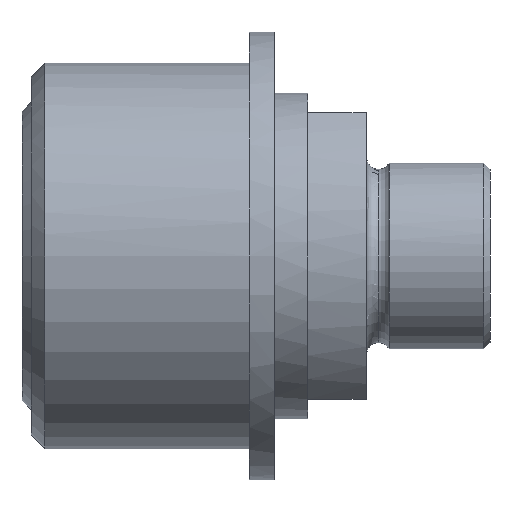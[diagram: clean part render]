
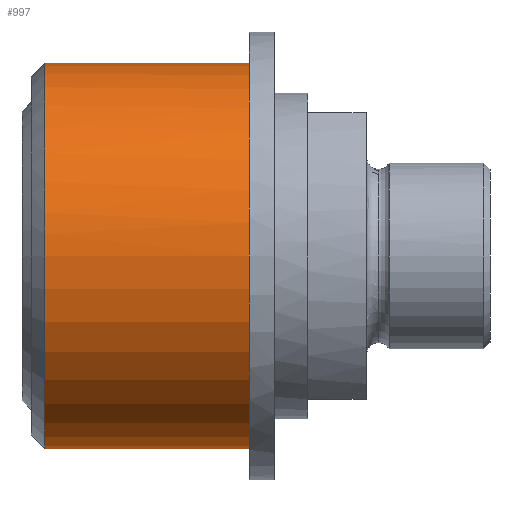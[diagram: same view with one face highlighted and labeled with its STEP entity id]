
A CAD part, front view. The second image highlights one B-rep face of the part: STEP entity #997.
In plain terms, the highlighted cylindrical face has radius 28 mm (diameter 56 mm), a partial arc.
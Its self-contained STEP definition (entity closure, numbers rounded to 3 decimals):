
#831=CARTESIAN_POINT('Vertex',(0.,0.,28.)) ;
#834=CARTESIAN_POINT('Axis2P3D Location',(0.,0.,0.)) ;
#838=CARTESIAN_POINT('Vertex',(0.,-28.,0.)) ;
#841=CARTESIAN_POINT('Axis2P3D Location',(0.,0.,0.)) ;
#845=CARTESIAN_POINT('Vertex',(0.,0.,-28.)) ;
#931=CARTESIAN_POINT('Line Origine',(35.,0.,-28.)) ;
#935=CARTESIAN_POINT('Vertex',(-29.697,0.,-28.)) ;
#952=CARTESIAN_POINT('Vertex',(-29.697,0.,28.)) ;
#955=CARTESIAN_POINT('Line Origine',(35.,0.,28.)) ;
#969=CARTESIAN_POINT('Axis2P3D Location',(35.,0.,0.)) ;
#975=CARTESIAN_POINT('Control Point',(-29.697,0.,28.)) ;
#976=CARTESIAN_POINT('Control Point',(-29.697,-8.796,28.)) ;
#977=CARTESIAN_POINT('Control Point',(-29.697,-17.601,24.556)) ;
#978=CARTESIAN_POINT('Control Point',(-29.697,-24.556,17.601)) ;
#979=CARTESIAN_POINT('Control Point',(-29.697,-28.,8.796)) ;
#980=CARTESIAN_POINT('Control Point',(-29.697,-28.,0.)) ;
#981=CARTESIAN_POINT('Vertex',(-29.697,-28.,0.)) ;
#984=CARTESIAN_POINT('Axis2P3D Location',(-29.697,0.,0.)) ;
#835=DIRECTION('Axis2P3D Direction',(1.,0.,-0.)) ;
#842=DIRECTION('Axis2P3D Direction',(1.,0.,-0.)) ;
#932=DIRECTION('Vector Direction',(-1.,0.,0.)) ;
#956=DIRECTION('Vector Direction',(-1.,0.,0.)) ;
#970=DIRECTION('Axis2P3D Direction',(-1.,-0.,-0.)) ;
#971=DIRECTION('Axis2P3D XDirection',(0.,0.,-1.)) ;
#985=DIRECTION('Axis2P3D Direction',(-1.,-0.,-0.)) ;
#836=AXIS2_PLACEMENT_3D('Circle Axis2P3D',#834,#835,$) ;
#843=AXIS2_PLACEMENT_3D('Circle Axis2P3D',#841,#842,$) ;
#972=AXIS2_PLACEMENT_3D('Cylinder Axis2P3D',#969,#970,#971) ;
#986=AXIS2_PLACEMENT_3D('Circle Axis2P3D',#984,#985,$) ;
#990=ORIENTED_EDGE('',*,*,#959,.T.) ;
#991=ORIENTED_EDGE('',*,*,#983,.T.) ;
#992=ORIENTED_EDGE('',*,*,#988,.T.) ;
#993=ORIENTED_EDGE('',*,*,#937,.T.) ;
#994=ORIENTED_EDGE('',*,*,#847,.F.) ;
#995=ORIENTED_EDGE('',*,*,#840,.F.) ;
#933=VECTOR('Line Direction',#932,1.) ;
#957=VECTOR('Line Direction',#956,1.) ;
#997=ADVANCED_FACE('AGS3412M27',(#996),#973,.T.) ;
#974=B_SPLINE_CURVE_WITH_KNOTS('',5,(#975,#976,#977,#978,#979,#980),.UNSPECIFIED.,.F.,.U.,(6,6),(-21.991,21.991),.UNSPECIFIED.) ;
#837=CIRCLE('generated circle',#836,28.) ;
#844=CIRCLE('generated circle',#843,28.) ;
#987=CIRCLE('generated circle',#986,28.) ;
#973=CYLINDRICAL_SURFACE('generated cylinder',#972,28.) ;
#840=EDGE_CURVE('',#832,#839,#837,.T.) ;
#847=EDGE_CURVE('',#839,#846,#844,.T.) ;
#937=EDGE_CURVE('',#936,#846,#934,.F.) ;
#959=EDGE_CURVE('',#832,#953,#958,.T.) ;
#983=EDGE_CURVE('',#953,#982,#974,.T.) ;
#988=EDGE_CURVE('',#982,#936,#987,.F.) ;
#989=EDGE_LOOP('',(#990,#991,#992,#993,#994,#995)) ;
#996=FACE_OUTER_BOUND('',#989,.T.) ;
#934=LINE('Line',#931,#933) ;
#958=LINE('Line',#955,#957) ;
#832=VERTEX_POINT('',#831) ;
#839=VERTEX_POINT('',#838) ;
#846=VERTEX_POINT('',#845) ;
#936=VERTEX_POINT('',#935) ;
#953=VERTEX_POINT('',#952) ;
#982=VERTEX_POINT('',#981) ;
